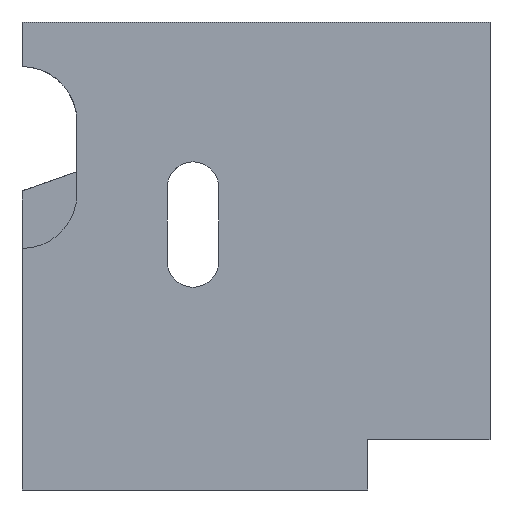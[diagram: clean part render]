
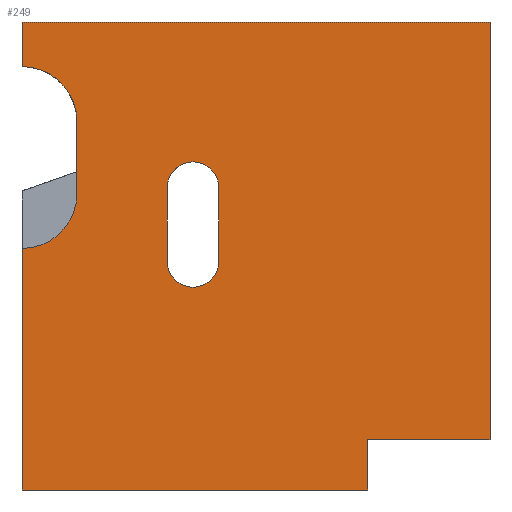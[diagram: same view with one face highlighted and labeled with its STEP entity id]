
A CAD part, front view. The second image highlights one B-rep face of the part: STEP entity #249.
In plain terms, the highlighted planar face has unit normal (0, -1, 0).
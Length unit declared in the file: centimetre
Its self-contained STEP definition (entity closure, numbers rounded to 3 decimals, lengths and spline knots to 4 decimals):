
#1 = VERTEX_POINT ( 'NONE', #1050 ) ;
#16 = CIRCLE ( 'NONE', #737, 117.2267 ) ;
#29 = ORIENTED_EDGE ( 'NONE', *, *, #663, .T. ) ;
#35 = CARTESIAN_POINT ( 'NONE',  ( 420.53, 0., 488.4443 ) ) ;
#43 = DIRECTION ( 'NONE',  ( 0., 1., 0. ) ) ;
#59 = ORIENTED_EDGE ( 'NONE', *, *, #769, .T. ) ;
#63 = EDGE_CURVE ( 'NONE', #578, #1, #795, .T. ) ;
#75 = EDGE_CURVE ( 'NONE', #656, #1151, #16, .T. ) ;
#91 = LINE ( 'NONE', #1094, #174 ) ;
#94 = VERTEX_POINT ( 'NONE', #939 ) ;
#104 = VERTEX_POINT ( 'NONE', #730 ) ;
#112 = CIRCLE ( 'NONE', #831, 117.2267 ) ;
#123 = VERTEX_POINT ( 'NONE', #345 ) ;
#130 = CIRCLE ( 'NONE', #458, 55.1188 ) ;
#133 = DIRECTION ( 'NONE',  ( 0., 1., 0. ) ) ;
#145 = DIRECTION ( 'NONE',  ( 0., 0., 1. ) ) ;
#150 = ORIENTED_EDGE ( 'NONE', *, *, #489, .T. ) ;
#163 = ORIENTED_EDGE ( 'NONE', *, *, #598, .T. ) ;
#165 = EDGE_CURVE ( 'NONE', #123, #578, #239, .T. ) ;
#174 = VECTOR ( 'NONE', #875, 100. ) ;
#197 = CARTESIAN_POINT ( 'NONE',  ( 738.7184, 0., 0. ) ) ;
#203 = CARTESIAN_POINT ( 'NONE',  ( 0., 0., 1000. ) ) ;
#205 = CARTESIAN_POINT ( 'NONE',  ( 420.53, 0., 645.9849 ) ) ;
#207 = ORIENTED_EDGE ( 'NONE', *, *, #413, .F. ) ;
#210 = DIRECTION ( 'NONE',  ( 0., 0., -1. ) ) ;
#224 = VERTEX_POINT ( 'NONE', #666 ) ;
#239 = LINE ( 'NONE', #447, #561 ) ;
#240 = LINE ( 'NONE', #957, #317 ) ;
#249 = ADVANCED_FACE ( 'NONE', ( #1269, #968 ), #1180, .F. ) ;
#250 = VERTEX_POINT ( 'NONE', #1173 ) ;
#272 = AXIS2_PLACEMENT_3D ( 'NONE', #1170, #493, #1081 ) ;
#290 = VECTOR ( 'NONE', #346, 100. ) ;
#304 = CARTESIAN_POINT ( 'NONE',  ( 0., 0., 1000. ) ) ;
#317 = VECTOR ( 'NONE', #536, 100. ) ;
#339 = VECTOR ( 'NONE', #1075, 100. ) ;
#344 = EDGE_LOOP ( 'NONE', ( #733, #445, #820, #540, #163 ) ) ;
#345 = CARTESIAN_POINT ( 'NONE',  ( 310.2924, 0., 488.4443 ) ) ;
#346 = DIRECTION ( 'NONE',  ( 1., 0., 0. ) ) ;
#349 = VERTEX_POINT ( 'NONE', #392 ) ;
#363 = VERTEX_POINT ( 'NONE', #506 ) ;
#392 = CARTESIAN_POINT ( 'NONE',  ( 738.7184, 0., 107.9035 ) ) ;
#399 = CARTESIAN_POINT ( 'NONE',  ( 0., 0., 1000. ) ) ;
#412 = DIRECTION ( 'NONE',  ( 0., 0., -1. ) ) ;
#413 = EDGE_CURVE ( 'NONE', #363, #250, #990, .T. ) ;
#422 = ORIENTED_EDGE ( 'NONE', *, *, #1244, .F. ) ;
#432 = LINE ( 'NONE', #1044, #894 ) ;
#445 = ORIENTED_EDGE ( 'NONE', *, *, #823, .T. ) ;
#447 = CARTESIAN_POINT ( 'NONE',  ( 310.2924, 0., 488.4443 ) ) ;
#458 = AXIS2_PLACEMENT_3D ( 'NONE', #1000, #133, #1213 ) ;
#461 = EDGE_CURVE ( 'NONE', #104, #534, #707, .T. ) ;
#489 = EDGE_CURVE ( 'NONE', #224, #720, #112, .T. ) ;
#493 = DIRECTION ( 'NONE',  ( 0., 1., 0. ) ) ;
#502 = ORIENTED_EDGE ( 'NONE', *, *, #75, .F. ) ;
#506 = CARTESIAN_POINT ( 'NONE',  ( 0., 0., 1000. ) ) ;
#522 = CARTESIAN_POINT ( 'NONE',  ( 738.7184, 0., 107.9035 ) ) ;
#525 = DIRECTION ( 'NONE',  ( 0., 0., 1. ) ) ;
#534 = VERTEX_POINT ( 'NONE', #35 ) ;
#536 = DIRECTION ( 'NONE',  ( 0., 0., -1. ) ) ;
#537 = VECTOR ( 'NONE', #210, 100. ) ;
#540 = ORIENTED_EDGE ( 'NONE', *, *, #63, .T. ) ;
#543 = CIRCLE ( 'NONE', #272, 55.1188 ) ;
#553 = CARTESIAN_POINT ( 'NONE',  ( 738.7184, 0., 0. ) ) ;
#558 = CARTESIAN_POINT ( 'NONE',  ( 0., 0., 787.4734 ) ) ;
#561 = VECTOR ( 'NONE', #1148, 100. ) ;
#575 = EDGE_CURVE ( 'NONE', #836, #349, #1272, .T. ) ;
#578 = VERTEX_POINT ( 'NONE', #972 ) ;
#598 = EDGE_CURVE ( 'NONE', #1, #104, #543, .T. ) ;
#627 = DIRECTION ( 'NONE',  ( 0., -1., 0. ) ) ;
#644 = VECTOR ( 'NONE', #412, 100. ) ;
#647 = EDGE_LOOP ( 'NONE', ( #758, #150, #59, #29, #900, #1008, #422, #207, #1246, #502 ) ) ;
#656 = VERTEX_POINT ( 'NONE', #670 ) ;
#663 = EDGE_CURVE ( 'NONE', #94, #836, #91, .T. ) ;
#666 = CARTESIAN_POINT ( 'NONE',  ( 117.2267, 0., 633.4557 ) ) ;
#670 = CARTESIAN_POINT ( 'NONE',  ( 117.2267, 0., 787.4734 ) ) ;
#698 = CARTESIAN_POINT ( 'NONE',  ( 0., 0., 904.7002 ) ) ;
#706 = EDGE_CURVE ( 'NONE', #363, #1151, #1206, .T. ) ;
#707 = LINE ( 'NONE', #205, #1025 ) ;
#710 = CARTESIAN_POINT ( 'NONE',  ( 1000., 0., 107.9035 ) ) ;
#717 = LINE ( 'NONE', #304, #537 ) ;
#720 = VERTEX_POINT ( 'NONE', #1012 ) ;
#724 = DIRECTION ( 'NONE',  ( 0., 0., 1. ) ) ;
#730 = CARTESIAN_POINT ( 'NONE',  ( 420.53, 0., 645.9849 ) ) ;
#733 = ORIENTED_EDGE ( 'NONE', *, *, #461, .T. ) ;
#737 = AXIS2_PLACEMENT_3D ( 'NONE', #558, #627, #145 ) ;
#758 = ORIENTED_EDGE ( 'NONE', *, *, #892, .F. ) ;
#759 = DIRECTION ( 'NONE',  ( 0., 0., 1. ) ) ;
#769 = EDGE_CURVE ( 'NONE', #720, #94, #717, .T. ) ;
#795 = CIRCLE ( 'NONE', #841, 55.1188 ) ;
#806 = DIRECTION ( 'NONE',  ( 1., 0., 0. ) ) ;
#820 = ORIENTED_EDGE ( 'NONE', *, *, #165, .T. ) ;
#823 = EDGE_CURVE ( 'NONE', #534, #123, #130, .T. ) ;
#831 = AXIS2_PLACEMENT_3D ( 'NONE', #1134, #43, #525 ) ;
#836 = VERTEX_POINT ( 'NONE', #553 ) ;
#841 = AXIS2_PLACEMENT_3D ( 'NONE', #946, #1143, #1247 ) ;
#875 = DIRECTION ( 'NONE',  ( 1., 0., 0. ) ) ;
#876 = VECTOR ( 'NONE', #806, 100. ) ;
#892 = EDGE_CURVE ( 'NONE', #224, #656, #432, .T. ) ;
#894 = VECTOR ( 'NONE', #724, 100. ) ;
#900 = ORIENTED_EDGE ( 'NONE', *, *, #575, .T. ) ;
#939 = CARTESIAN_POINT ( 'NONE',  ( 0., 0., 0. ) ) ;
#946 = CARTESIAN_POINT ( 'NONE',  ( 365.4112, 0., 645.9849 ) ) ;
#957 = CARTESIAN_POINT ( 'NONE',  ( 1000., 0., 1000. ) ) ;
#968 = FACE_OUTER_BOUND ( 'NONE', #647, .T. ) ;
#972 = CARTESIAN_POINT ( 'NONE',  ( 310.2924, 0., 645.9849 ) ) ;
#990 = LINE ( 'NONE', #399, #876 ) ;
#1000 = CARTESIAN_POINT ( 'NONE',  ( 365.4112, 0., 488.4443 ) ) ;
#1008 = ORIENTED_EDGE ( 'NONE', *, *, #1185, .T. ) ;
#1012 = CARTESIAN_POINT ( 'NONE',  ( 0., 0., 516.2289 ) ) ;
#1025 = VECTOR ( 'NONE', #1192, 100. ) ;
#1036 = LINE ( 'NONE', #522, #290 ) ;
#1044 = CARTESIAN_POINT ( 'NONE',  ( 117.2267, 0., 787.4734 ) ) ;
#1050 = CARTESIAN_POINT ( 'NONE',  ( 365.4112, 0., 701.1037 ) ) ;
#1061 = DIRECTION ( 'NONE',  ( 0., 1., 0. ) ) ;
#1075 = DIRECTION ( 'NONE',  ( 0., 0., 1. ) ) ;
#1081 = DIRECTION ( 'NONE',  ( 0., 0., 1. ) ) ;
#1094 = CARTESIAN_POINT ( 'NONE',  ( 0., 0., 0. ) ) ;
#1134 = CARTESIAN_POINT ( 'NONE',  ( 0., 0., 633.4557 ) ) ;
#1135 = VERTEX_POINT ( 'NONE', #710 ) ;
#1143 = DIRECTION ( 'NONE',  ( 0., 1., 0. ) ) ;
#1148 = DIRECTION ( 'NONE',  ( 0., 0., 1. ) ) ;
#1151 = VERTEX_POINT ( 'NONE', #698 ) ;
#1170 = CARTESIAN_POINT ( 'NONE',  ( 365.4112, 0., 645.9849 ) ) ;
#1173 = CARTESIAN_POINT ( 'NONE',  ( 1000., 0., 1000. ) ) ;
#1180 = PLANE ( 'NONE',  #1280 ) ;
#1184 = CARTESIAN_POINT ( 'NONE',  ( 0., 0., 1000. ) ) ;
#1185 = EDGE_CURVE ( 'NONE', #349, #1135, #1036, .T. ) ;
#1192 = DIRECTION ( 'NONE',  ( 0., 0., -1. ) ) ;
#1206 = LINE ( 'NONE', #203, #644 ) ;
#1213 = DIRECTION ( 'NONE',  ( 0., 0., 1. ) ) ;
#1244 = EDGE_CURVE ( 'NONE', #250, #1135, #240, .T. ) ;
#1246 = ORIENTED_EDGE ( 'NONE', *, *, #706, .T. ) ;
#1247 = DIRECTION ( 'NONE',  ( 0., 0., 1. ) ) ;
#1269 = FACE_BOUND ( 'NONE', #344, .T. ) ;
#1272 = LINE ( 'NONE', #197, #339 ) ;
#1280 = AXIS2_PLACEMENT_3D ( 'NONE', #1184, #1061, #759 ) ;
